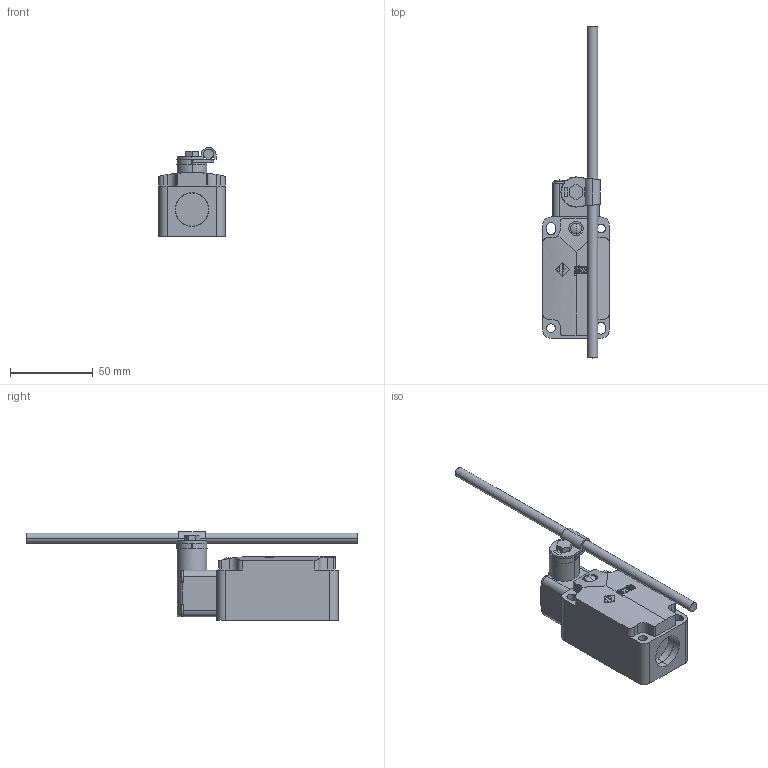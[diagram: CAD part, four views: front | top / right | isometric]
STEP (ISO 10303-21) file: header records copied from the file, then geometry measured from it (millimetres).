
FILE_DESCRIPTION (( 'STEP AP214' ), '1' );
FILE_NAME ('ZF_STEP_FP_x36.step', '2015-05-14T14:38:10', ( 'utente' ), ( 'Microsoft' ), 'SwSTEP 2.0', 'SolidWorks 2014', '' );
FILE_SCHEMA (( 'AUTOMOTIVE_DESIGN' ));
Length unit declared in the file: millimetre
Products named in the file (9): Pizzato_Custodia_FP; ZF_STEP_FP_x36; ZF_STEP_VF_T36; ZF_STEP_VF_L36_A10; Vite_leve_pesanti; Pizzato_piastrina_leva_L36_267; Pizzato_asta_tonda_d6; Pizzato_supporto-leva_serie_pesanti_262; ZF_STEP_VF_T38_Lung Vite 2mm
Assembly tree (8 placements, depth 4):
  ZF_STEP_FP_x36
    Pizzato_Custodia_FP
    ZF_STEP_VF_T36
      ZF_STEP_VF_T38_Lung Vite 2mm
      ZF_STEP_VF_L36_A10
        Pizzato_supporto-leva_serie_pesanti_262
        Pizzato_asta_tonda_d6
        Pizzato_piastrina_leva_L36_267
        Vite_leve_pesanti
Bounding box: 40 x 200 x 53.6 mm (x, y, z)
Volume: 127370.6 mm3; surface area: 29536.5 mm2
Topology: 6 solids, 6 shells, 801 faces, 2237 edges, 1490 vertices
Faces by surface type: plane 424, cylinder 268, bspline 97, sphere 10, torus 2
Entity records: 31247 total; most frequent: CARTESIAN_POINT 10513, ORIENTED_EDGE 4474, DIRECTION 3984, EDGE_CURVE 2237, VERTEX_POINT 1490, LINE 1388, VECTOR 1388, AXIS2_PLACEMENT_3D 1298
